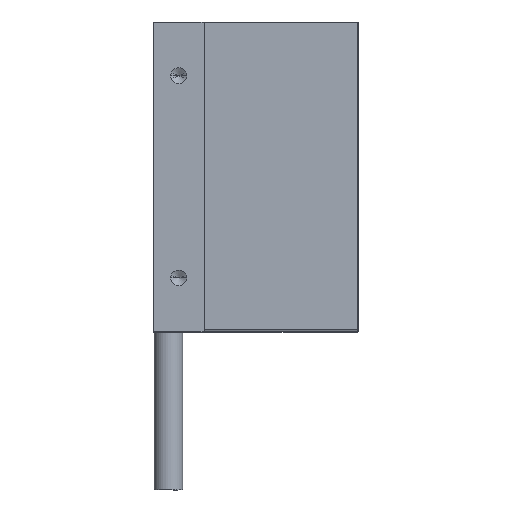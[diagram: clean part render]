
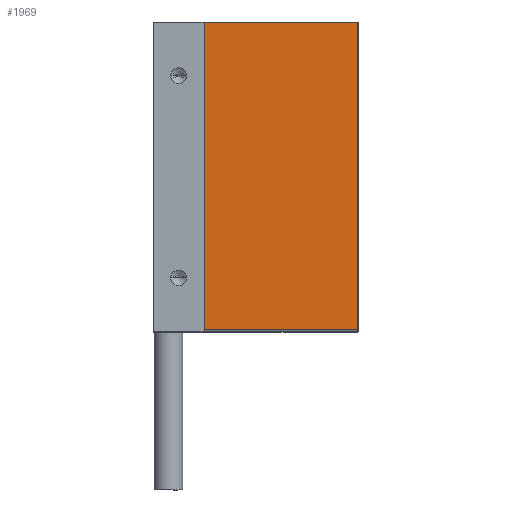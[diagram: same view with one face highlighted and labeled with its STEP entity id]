
A CAD part, left-side view. The second image highlights one B-rep face of the part: STEP entity #1969.
In plain terms, the highlighted planar face has unit normal (-1, 0, 0).
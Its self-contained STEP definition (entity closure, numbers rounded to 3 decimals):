
#225 = CARTESIAN_POINT ( 'NONE',  ( 0., 48.367, 36.65 ) ) ;
#249 = EDGE_LOOP ( 'NONE', ( #3206, #1150, #1200, #1959 ) ) ;
#516 = LINE ( 'NONE', #225, #3176 ) ;
#583 = AXIS2_PLACEMENT_3D ( 'NONE', #3288, #2990, #1956 ) ;
#666 = EDGE_CURVE ( 'NONE', #1265, #1063, #516, .T. ) ;
#676 = EDGE_CURVE ( 'NONE', #1067, #2654, #1786, .T. ) ;
#747 = DIRECTION ( 'NONE',  ( 0., -1., 0. ) ) ;
#854 = CARTESIAN_POINT ( 'NONE',  ( 0., -0.566, 12.4 ) ) ;
#997 = VECTOR ( 'NONE', #2427, 1000. ) ;
#1063 = VERTEX_POINT ( 'NONE', #2724 ) ;
#1067 = VERTEX_POINT ( 'NONE', #2940 ) ;
#1080 = EDGE_CURVE ( 'NONE', #1265, #2654, #3146, .T. ) ;
#1150 = ORIENTED_EDGE ( 'NONE', *, *, #666, .T. ) ;
#1200 = ORIENTED_EDGE ( 'NONE', *, *, #1361, .T. ) ;
#1265 = VERTEX_POINT ( 'NONE', #1610 ) ;
#1361 = EDGE_CURVE ( 'NONE', #1063, #1067, #2633, .T. ) ;
#1509 = DIRECTION ( 'NONE',  ( 0., 1., 0. ) ) ;
#1610 = CARTESIAN_POINT ( 'NONE',  ( 0., -0.566, 36.65 ) ) ;
#1750 = CARTESIAN_POINT ( 'NONE',  ( 0., -48.178, 12.4 ) ) ;
#1786 = LINE ( 'NONE', #1750, #2587 ) ;
#1920 = CARTESIAN_POINT ( 'NONE',  ( 0., -0.566, 33.65 ) ) ;
#1930 = PLANE ( 'NONE',  #583 ) ;
#1956 = DIRECTION ( 'NONE',  ( 0., 0., 1. ) ) ;
#1959 = ORIENTED_EDGE ( 'NONE', *, *, #676, .T. ) ;
#1969 = ADVANCED_FACE ( 'NONE', ( #2690 ), #1930, .T. ) ;
#2133 = CARTESIAN_POINT ( 'NONE',  ( 0., 48.178, 33.65 ) ) ;
#2315 = VECTOR ( 'NONE', #2408, 1000. ) ;
#2408 = DIRECTION ( 'NONE',  ( 0., 0., -1. ) ) ;
#2427 = DIRECTION ( 'NONE',  ( 0., 0., -1. ) ) ;
#2587 = VECTOR ( 'NONE', #747, 1000. ) ;
#2633 = LINE ( 'NONE', #2133, #2315 ) ;
#2654 = VERTEX_POINT ( 'NONE', #854 ) ;
#2690 = FACE_OUTER_BOUND ( 'NONE', #249, .T. ) ;
#2724 = CARTESIAN_POINT ( 'NONE',  ( 0., 48.178, 36.65 ) ) ;
#2940 = CARTESIAN_POINT ( 'NONE',  ( 0., 48.178, 12.4 ) ) ;
#2990 = DIRECTION ( 'NONE',  ( -1., 0., 0. ) ) ;
#3146 = LINE ( 'NONE', #1920, #997 ) ;
#3176 = VECTOR ( 'NONE', #1509, 1000. ) ;
#3206 = ORIENTED_EDGE ( 'NONE', *, *, #1080, .F. ) ;
#3288 = CARTESIAN_POINT ( 'NONE',  ( 0., -48.5, 33.65 ) ) ;
